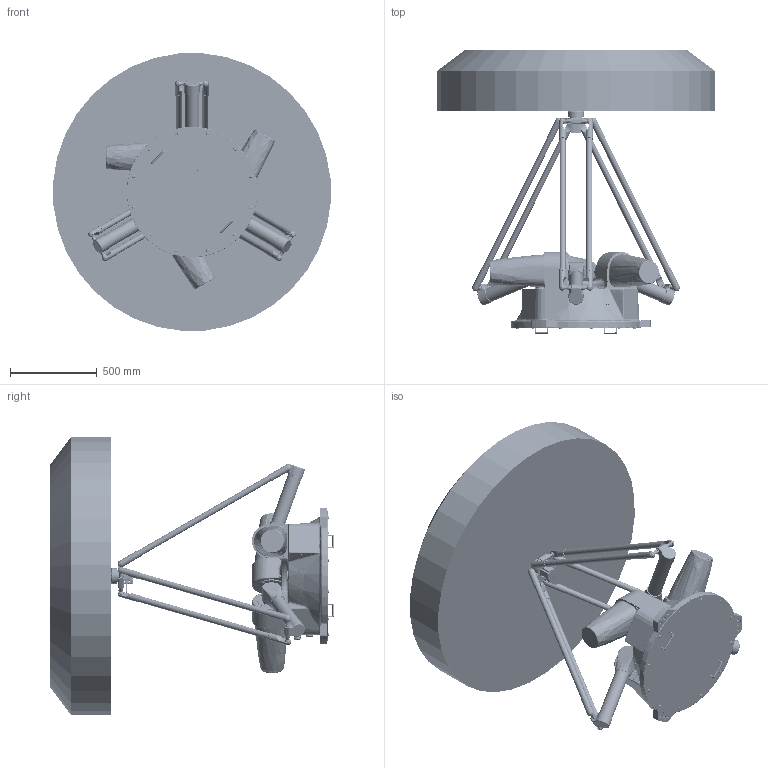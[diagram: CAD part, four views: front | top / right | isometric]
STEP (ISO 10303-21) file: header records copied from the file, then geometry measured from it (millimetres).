
FILE_DESCRIPTION (( 'STEP AP203' ), '1' );
FILE_NAME ('AP25X-1600-1544-T0-V3.0.0.STEP', '2024-12-25T03:09:53', ( '' ), ( '' ), 'SwSTEP 2.0', 'SolidWorks 2017', '' );
FILE_SCHEMA (( 'CONFIG_CONTROL_DESIGN' ));
Length unit declared in the file: millimetre
Products named in the file (18): AP25X-1130-1544-T10-V1.0.0; AP25X-1600-1544-T3-V1.0.0; AP25X-1600-1544-T2-V1.0.0; AP15X-2200-1544-T1-V1.0.1; AP25X-1600-1544-T0-V3.0.0; AP25X-1600-1544-T10-V2.0.0
Assembly tree (12 placements, depth 2):
  AP25X-1600-1544-T3-V1.0.0
  AP25X-1600-1544-T3-V1.0.0
  AP25X-1600-1544-T2-V1.0.0
  AP25X-1600-1544-T3-V1.0.0
  AP25X-1600-1544-T3-V1.0.0
Bounding box: 1595.41 x 1632 x 1595.41 mm (x, y, z)
Volume: 675089768.3 mm3; surface area: 10378950.5 mm2
Topology: 57 solids, 236 shells, 6980 faces, 18886 edges, 12155 vertices
Faces by surface type: bspline 2346, plane 2162, cylinder 1580, cone 676, torus 129, sphere 87
Full cylindrical faces by diameter (mm): 0.9 x7, 1.5 x4, 1.6 x1, 2 x7, 2.05 x9, 2.1 x2, 2.3 x4, 2.5 x43, 3 x15, 3.3 x26, 3.4 x7, 3.5 x52, 4.2 x25, 4.268 x1, 4.383 x1, 4.5 x16, 4.8 x1, 5 x90, 5.3 x1, 5.5 x20, 6 x6, 6.647 x36, 6.8 x12, 7 x9, 7.3 x2, 8 x36, 9 x42, 9.3 x2, 9.51 x2, 10 x10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
Entity records: 337224 total; most frequent: CARTESIAN_POINT 207502, ORIENTED_EDGE 28345, DIRECTION 20741, EDGE_CURVE 14676, VERTEX_POINT 10134, AXIS2_PLACEMENT_3D 7743, EDGE_LOOP 7709, FACE_OUTER_BOUND 6666
